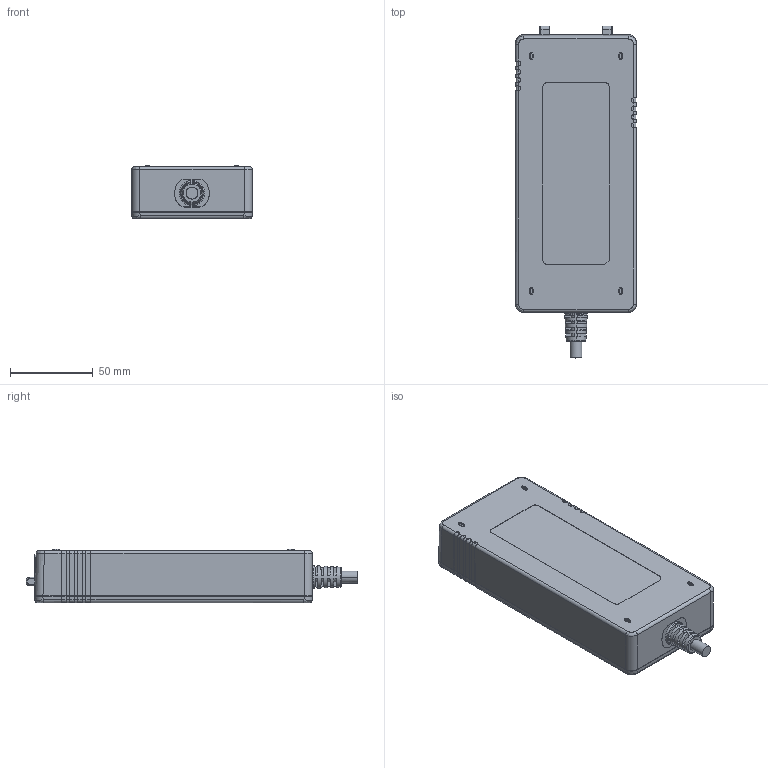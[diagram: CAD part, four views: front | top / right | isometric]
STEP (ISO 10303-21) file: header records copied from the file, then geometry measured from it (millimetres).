
FILE_DESCRIPTION (( 'STEP AP214' ), '1' );
FILE_NAME ('APM240.STEP', '2025-09-01T08:58:46', ( '' ), ( '' ), 'SwSTEP 2.0', 'SolidWorks 2024', '' );
FILE_SCHEMA (( 'AUTOMOTIVE_DESIGN' ));
Length unit declared in the file: millimetre
Products named in the file (29): PRT0004_1_1_1_1_1_1_1_1_1_1_1_1.IGS; CF101_1_1_1_1_1_1_1_1_1_1_1_1_2.IGS; PRT0001_1_1_1_1_1_1_1_1_1_1_1_1.IGS; FE_1_1.IGS; PRT0022_1_1_1_1_1_1_1_1_1_1_1_1.IGS; CM15_MHQ_1_1_1_1_1_1_1_1_1_1_1_.IGS; 265DZ-LOWER_2_1_1_5_7_3_37_2.IGS; PRT0028_1_1_1_1_1_1_1_1_1_1_1_1.IGS; PIN_SZ_1_1_1_1_1_1_1_1_1.IGS; FE_1_2.IGS; LOWER_7_8_12_42_1_12_5_1_17_1_1.IGS; UES240D-HS2_17_6_2_1_1_1_1_1_1.IGS; APM240.IGS; APM240-HSMN_4_1_1_1_1_1_2_1.IGS; CM14_MHQ_1_1_1_1_1_1_1_1_1_1_1_.IGS; APM240-PCB-A1_2_1_1_1_1_1_1.IGS; PRT0024_1_1_1_1_1_1_1_1_1_1_1_1.IGS; MANIFOLD_SOLID_BREP_107_2_1_1_1.IGS; MANIFOLD_SOLID_BREP_116_1_1_1_1.IGS; 240D-20231114-01_1_1_1_1_1_1.IGS; SR-JD_3_1_1_1_2.IGS; MANIFOLD_SOLID_BREP_113_1_1_1_1.IGS; MANIFOLD_SOLID_BREP_110_1_1_1_1.IGS; C14_ASM_ASM_1_1_ASM_1_ASM_1_A_1_ASM-0.IGS; PRT0003_1_1_1_1_1_1_1_1_1_1_1_1.IGS; APM240; UES240D-HS3_12_8_3_1_1_1_1_1_1.IGS; FN24_1_1_1_1_1_1_1_1_1_1_1_1_1.IGS; PRT0005_1_1_1_1_1_1_1_1_1_1_1_1.IGS
Assembly tree (29 placements, depth 3):
  APM240
    APM240.IGS
      UES240D-HS2_17_6_2_1_1_1_1_1_1.IGS
      PIN_SZ_1_1_1_1_1_1_1_1_1.IGS  x2
      UES240D-HS3_12_8_3_1_1_1_1_1_1.IGS
      265DZ-LOWER_2_1_1_5_7_3_37_2.IGS
      LOWER_7_8_12_42_1_12_5_1_17_1_1.IGS
      APM240-HSMN_4_1_1_1_1_1_2_1.IGS
      MANIFOLD_SOLID_BREP_107_2_1_1_1.IGS
      MANIFOLD_SOLID_BREP_110_1_1_1_1.IGS
      MANIFOLD_SOLID_BREP_113_1_1_1_1.IGS
      MANIFOLD_SOLID_BREP_116_1_1_1_1.IGS
      CM14_MHQ_1_1_1_1_1_1_1_1_1_1_1_.IGS
      CM15_MHQ_1_1_1_1_1_1_1_1_1_1_1_.IGS
      PRT0022_1_1_1_1_1_1_1_1_1_1_1_1.IGS
      PRT0024_1_1_1_1_1_1_1_1_1_1_1_1.IGS
      PRT0001_1_1_1_1_1_1_1_1_1_1_1_1.IGS
      PRT0028_1_1_1_1_1_1_1_1_1_1_1_1.IGS
      PRT0003_1_1_1_1_1_1_1_1_1_1_1_1.IGS
      PRT0004_1_1_1_1_1_1_1_1_1_1_1_1.IGS
      PRT0005_1_1_1_1_1_1_1_1_1_1_1_1.IGS
      FN24_1_1_1_1_1_1_1_1_1_1_1_1_1.IGS
      CF101_1_1_1_1_1_1_1_1_1_1_1_1_2.IGS
      C14_ASM_ASM_1_1_ASM_1_ASM_1_A_1_ASM-0.IGS
      APM240-PCB-A1_2_1_1_1_1_1_1.IGS
      240D-20231114-01_1_1_1_1_1_1.IGS
      SR-JD_3_1_1_1_2.IGS
      FE_1_1.IGS
      FE_1_2.IGS
Bounding box: 73 x 200.86 x 32.3 mm (x, y, z)
Volume: 43688.2 mm3; surface area: 174959.9 mm2
Topology: 22 solids, 33 shells, 3178 faces, 8336 edges, 5424 vertices
Faces by surface type: bspline 3178
Entity records: 108077 total; most frequent: CARTESIAN_POINT 57565, ORIENTED_EDGE 16491, EDGE_CURVE 8265, B_SPLINE_CURVE_WITH_KNOTS 7219, VERTEX_POINT 5382, EDGE_LOOP 3412, FACE_OUTER_BOUND 3155, ADVANCED_FACE 3155
